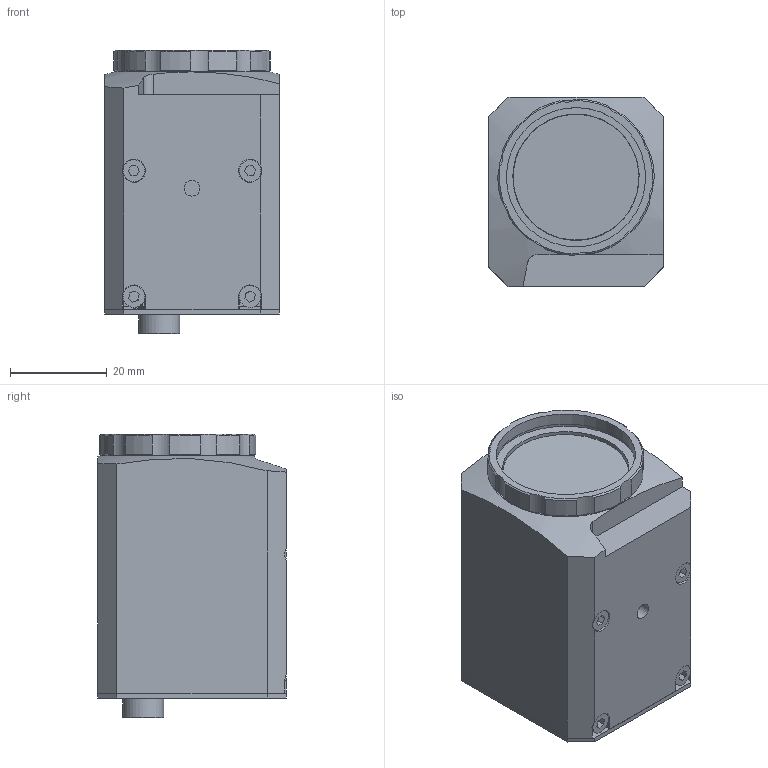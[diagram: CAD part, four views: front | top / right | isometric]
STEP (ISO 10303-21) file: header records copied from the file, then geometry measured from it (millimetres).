
FILE_DESCRIPTION (( 'STEP AP214' ), '1' );
FILE_NAME ('BeamPro Phi25 I.STEP', '2024-03-07T16:37:06', ( '' ), ( '' ), 'SwSTEP 2.0', 'SolidWorks 2020', '' );
FILE_SCHEMA (( 'AUTOMOTIVE_DESIGN' ));
Length unit declared in the file: millimetre
Products named in the file (1): BeamPro Phi25 I
Bounding box: 36.1 x 39 x 58.6 mm (x, y, z)
Surface area: 13226.2 mm2 (no closed solid volume)
Topology: 0 solids, 17 shells, 211 faces, 589 edges, 401 vertices
Faces by surface type: plane 108, cylinder 64, cone 24, torus 14, sphere 1
Full cylindrical faces by diameter (mm): 1 x1, 1.6 x2, 3 x1, 3.3 x1, 3.45 x1, 4 x5, 4.8 x2, 6.8 x1, 8.5 x1, 10.6 x1, 26.1 x1, 28.773 x1, 30 x1
Entity records: 9049 total; most frequent: CARTESIAN_POINT 1400, DIRECTION 1123, ORIENTED_EDGE 978, EDGE_CURVE 554, AXIS2_PLACEMENT_3D 415, VERTEX_POINT 395, LINE 293, VECTOR 293
